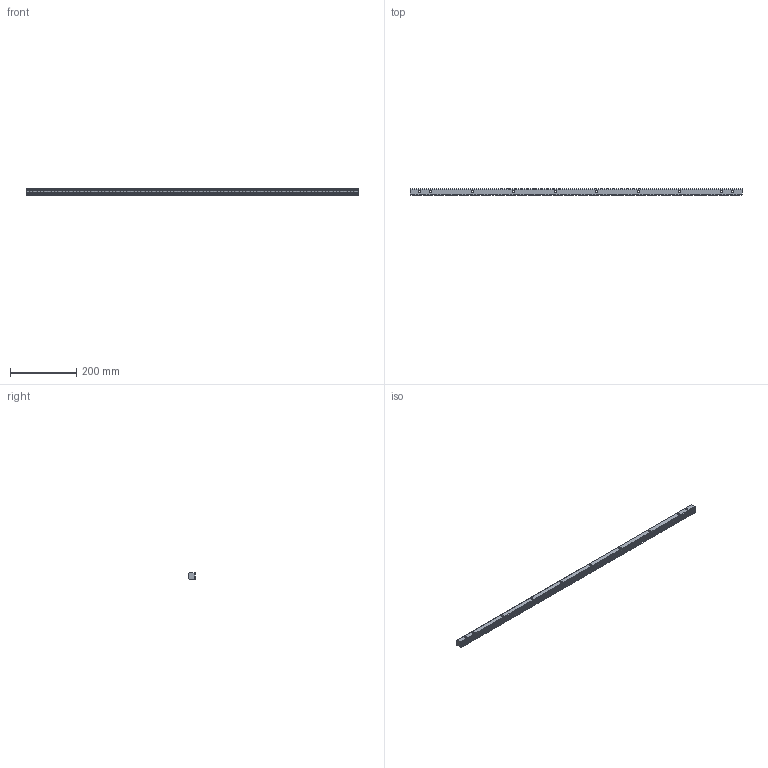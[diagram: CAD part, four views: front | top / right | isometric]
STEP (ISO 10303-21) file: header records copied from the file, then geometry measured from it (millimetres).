
FILE_DESCRIPTION(/* description */ (''),/* implementation_level */ '2;1');
FILE_NAME(/* name */ 'M1.5直齿.stp',/* time_stamp */ '2022-11-04T12:47:34+08:00',/* author */ (''),/* organization */ (''),/* preprocessor_version */ 'ST-DEVELOPER v16.7',/* originating_system */ 'SIEMENS PLM Software NX 12.0',/* authorisation */ '');
FILE_SCHEMA (('AP203_CONFIGURATION_CONTROLLED_3D_DESIGN_OF_MECHANICAL_PARTS_AND_ASSEMBLIES_MIM_LF { 1 0 10303 403 2 1 2}'));
Length unit declared in the file: millimetre
Products named in the file (1): Admi574C17B1t3pd
Bounding box: 999.03 x 19 x 19 mm (x, y, z)
Volume: 317990.2 mm3; surface area: 94629.9 mm2
Topology: 1 solids, 1 shells, 882 faces, 2624 edges, 1752 vertices
Faces by surface type: plane 864, cylinder 18
Full cylindrical faces by diameter (mm): 5.7 x2, 7 x8, 11 x8
Entity records: 28968 total; most frequent: CARTESIAN_POINT 5225, ORIENTED_EDGE 5196, DIRECTION 4400, EDGE_CURVE 2598, LINE 2562, VECTOR 2562, VERTEX_POINT 1744, EDGE_LOOP 928
